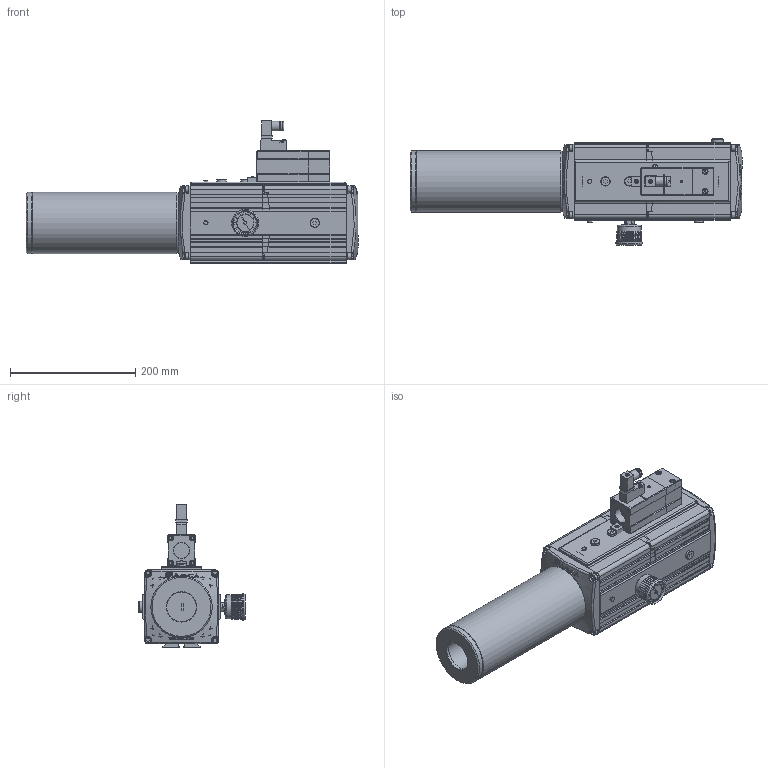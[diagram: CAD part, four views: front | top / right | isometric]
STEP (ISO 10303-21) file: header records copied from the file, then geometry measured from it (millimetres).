
FILE_DESCRIPTION( ( 'Unknown' ), '1' );
FILE_NAME( 'C:/Documents and Settings/Administrator/官帕 拳搁/3D Dimension/MPM303X5-02S-A3-DN.stp', 'Unknown', ( 'Unknown' ), ( 'Unknown' ), 'PSStep 10.0', 'Unknown', ' ' );
FILE_SCHEMA( ( 'AUTOMOTIVE_DESIGN { 1 0 10303 214 1 1 1 1 }' ) );
Length unit declared in the file: millimetre
Products named in the file (21): SILENCER_6; Assem1; VMS34-B(DIM); COVER_6; ELEMENT_6; SPONGE_6; END CAP_6; BODY-A(ASV)(DIM); BODY-B(dim); DIN Valve_1; M6-Bolt_0_0; END CAP-212_0_0; VTP-M5_0_0; red_0_0; VTP18_0_0; VTP14_0_0; END CAP-112_0_0; Vacuum Gauge_0_0; Body(re1)(dim); VTP-M5_10; VTP18_10
Bounding box: 530 x 169.5 x 228.6 mm (x, y, z)
Volume: 12950101 mm3; surface area: 1912872.9 mm2
Topology: 58 solids, 64 shells, 4209 faces, 10429 edges, 6708 vertices
Faces by surface type: plane 2545, cylinder 1048, cone 269, bspline 99, sphere 96, extrusion 84, torus 64, revolution 4
Full cylindrical faces by diameter (mm): 0.274 x2, 0.884 x4, 1.008 x9, 1.5 x6, 1.8 x6, 2.3 x6, 2.5 x3, 3 x6, 3.2 x6, 3.4 x12, 4 x6, 4.075 x4, 4.2 x20, 4.5 x12, 4.552 x4, 5 x3, 5.2 x6, 5.5 x9, 6 x9, 6.337 x4, 6.5 x16, 6.535 x3, 6.8 x8, 7 x12, 7.2 x3, 8 x12, 8.5 x6, 8.8 x10, 9.5 x6, 9.6 x2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
Entity records: 74229 total; most frequent: CARTESIAN_POINT 16230, DIRECTION 8780, ORIENTED_EDGE 8548, EDGE_CURVE 4274, AXIS2_PLACEMENT_3D 3045, VERTEX_POINT 2881, VECTOR 2688, LINE 2646
